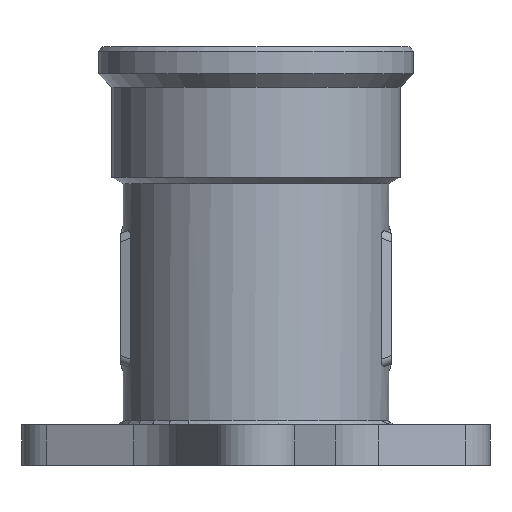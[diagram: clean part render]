
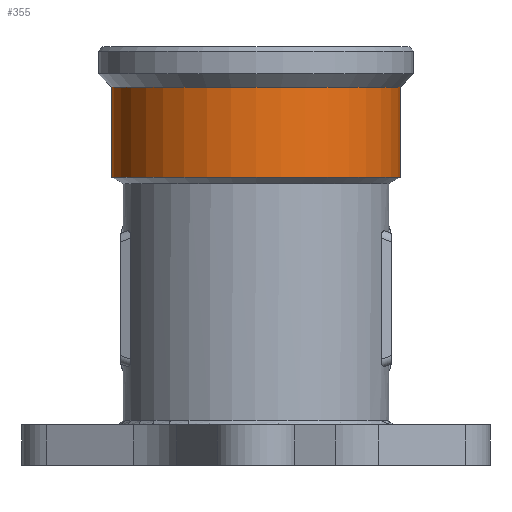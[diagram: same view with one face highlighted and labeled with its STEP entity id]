
A CAD part, front view. The second image highlights one B-rep face of the part: STEP entity #355.
In plain terms, the highlighted cylindrical face has radius 16 mm (diameter 32 mm), a full revolution.
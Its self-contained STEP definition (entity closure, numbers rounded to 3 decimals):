
#355=ADVANCED_FACE('',(#2872,#2874),#2876,.T.);
#2872=FACE_BOUND('',#2873,.T.);
#2873=EDGE_LOOP('',(#5969,#5970));
#2874=FACE_OUTER_BOUND('',#2875,.T.);
#2875=EDGE_LOOP('',(#5971));
#2876=CYLINDRICAL_SURFACE('',#2877,16.);
#2877=AXIS2_PLACEMENT_3D('',#2878,#2879,#2880);
#2878=CARTESIAN_POINT('',(0.,0.,13.5));
#2879=DIRECTION('',(0.,0.,1.));
#2880=DIRECTION('',(-1.,0.,0.));
#5969=ORIENTED_EDGE('',*,*,#7828,.F.);
#5970=ORIENTED_EDGE('',*,*,#7829,.F.);
#5971=ORIENTED_EDGE('',*,*,#7682,.F.);
#7682=EDGE_CURVE('',#9397,#9397,#9398,.F.);
#7828=EDGE_CURVE('',#9649,#9650,#9651,.T.);
#7829=EDGE_CURVE('',#9650,#9649,#9652,.T.);
#9397=VERTEX_POINT('',#14761);
#9398=CIRCLE('',#14762,16.);
#9649=VERTEX_POINT('',#15325);
#9650=VERTEX_POINT('',#15326);
#9651=CIRCLE('',#15327,16.);
#9652=CIRCLE('',#15331,16.);
#14761=CARTESIAN_POINT('',(-16.,0.,13.5));
#14762=AXIS2_PLACEMENT_3D('',#14763,#14764,#14765);
#14763=CARTESIAN_POINT('',(0.,0.,13.5));
#14764=DIRECTION('',(0.,0.,1.));
#14765=DIRECTION('',(-1.,0.,0.));
#15325=CARTESIAN_POINT('',(-16.,0.,23.5));
#15326=CARTESIAN_POINT('',(0.,16.,23.5));
#15327=AXIS2_PLACEMENT_3D('',#15328,#15329,#15330);
#15328=CARTESIAN_POINT('',(0.,0.,23.5));
#15329=DIRECTION('',(0.,0.,1.));
#15330=DIRECTION('',(-1.,0.,0.));
#15331=AXIS2_PLACEMENT_3D('',#15332,#15333,#15334);
#15332=CARTESIAN_POINT('',(0.,0.,23.5));
#15333=DIRECTION('',(0.,0.,1.));
#15334=DIRECTION('',(0.,1.,0.));
